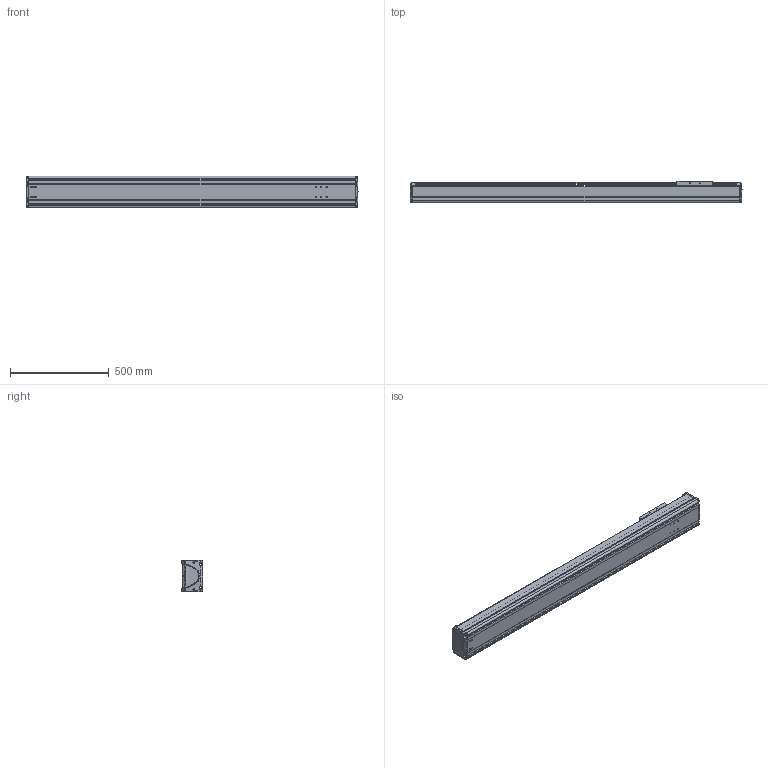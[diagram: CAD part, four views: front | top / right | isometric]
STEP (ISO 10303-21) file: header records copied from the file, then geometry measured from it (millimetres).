
FILE_DESCRIPTION((''),'2;1');
FILE_NAME('BE50G-ST-M_N-D0_IGS_PRT','2017-06-18T',(' '),(''),'PRO/ENGINEER BY PARAMETRIC TECHNOLOGY CORPORATION, 2015030','PRO/ENGINEER BY PARAMETRIC TECHNOLOGY CORPORATION, 2015030','');
FILE_SCHEMA(('CONFIG_CONTROL_DESIGN'));
Length unit declared in the file: millimetre
Products named in the file (1): BE50G-ST-M_N-D0_IGS_PRT
Bounding box: 1679.98 x 110 x 160 mm (x, y, z)
Volume: 6927702.2 mm3; surface area: 2527258.1 mm2
Topology: 3 solids, 104 shells, 1694 faces, 4530 edges, 2929 vertices
Faces by surface type: cylinder 780, plane 603, bspline 102, torus 87, cone 82, sphere 40
Entity records: 58793 total; most frequent: CARTESIAN_POINT 17002, ORIENTED_EDGE 8610, DIRECTION 8504, EDGE_CURVE 4504, AXIS2_PLACEMENT_3D 3196, VERTEX_POINT 2921, VECTOR 2112, LINE 2112
